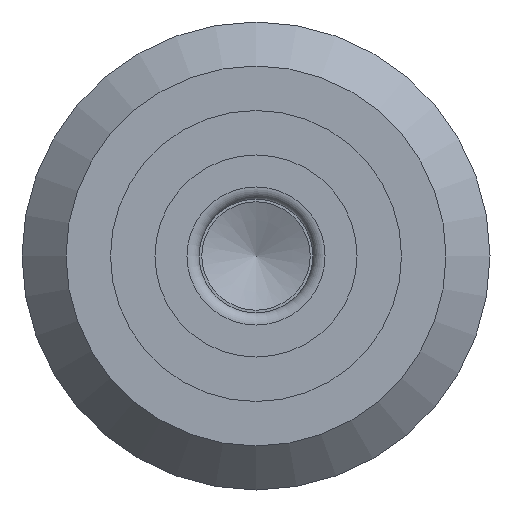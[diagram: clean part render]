
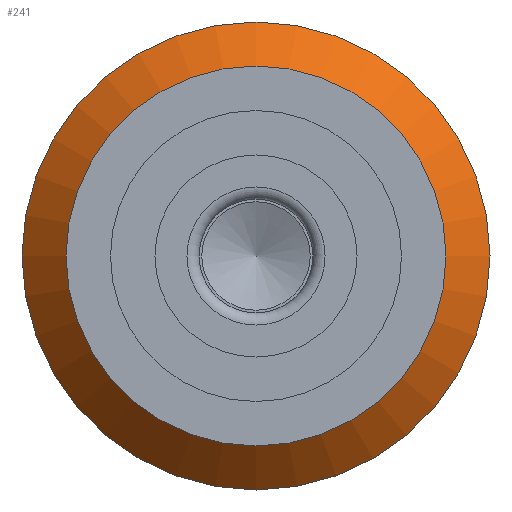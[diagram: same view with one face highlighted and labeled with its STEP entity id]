
A CAD part, left-side view. The second image highlights one B-rep face of the part: STEP entity #241.
In plain terms, the highlighted conical face has half-angle 45 degrees and reference radius 9.792 mm.
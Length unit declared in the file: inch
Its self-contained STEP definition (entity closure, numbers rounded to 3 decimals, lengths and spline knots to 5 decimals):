
#241 = ADVANCED_FACE( '', ( #499, #500 ), #501, .T. );
#499 = FACE_BOUND( '', #754, .T. );
#500 = FACE_OUTER_BOUND( '', #755, .T. );
#501 = CONICAL_SURFACE( '', #756, 0.3855, 0.785 );
#754 = EDGE_LOOP( '', ( #1169 ) );
#755 = EDGE_LOOP( '', ( #1170 ) );
#756 = AXIS2_PLACEMENT_3D( '', #1171, #1172, #1173 );
#1169 = ORIENTED_EDGE( '', *, *, #1359, .T. );
#1170 = ORIENTED_EDGE( '', *, *, #1317, .F. );
#1171 = CARTESIAN_POINT( '', ( -0.0825, 0., 0. ) );
#1172 = DIRECTION( '', ( 1., 0., 0. ) );
#1173 = DIRECTION( '', ( 0., 1., 0. ) );
#1317 = EDGE_CURVE( '', #1517, #1517, #1518, .T. );
#1359 = EDGE_CURVE( '', #1577, #1577, #1578, .T. );
#1517 = VERTEX_POINT( '', #1857 );
#1518 = CIRCLE( '', #1858, 0.3855 );
#1577 = VERTEX_POINT( '', #1924 );
#1578 = CIRCLE( '', #1925, 0.313 );
#1857 = CARTESIAN_POINT( '', ( -0.0825, 0.3855, 0. ) );
#1858 = AXIS2_PLACEMENT_3D( '', #2050, #2051, #2052 );
#1924 = CARTESIAN_POINT( '', ( -0.155, 0.313, 0. ) );
#1925 = AXIS2_PLACEMENT_3D( '', #2110, #2111, #2112 );
#2050 = CARTESIAN_POINT( '', ( -0.0825, 0., 0. ) );
#2051 = DIRECTION( '', ( 1., 0., 0. ) );
#2052 = DIRECTION( '', ( 0., 1., 0. ) );
#2110 = CARTESIAN_POINT( '', ( -0.155, 0., 0. ) );
#2111 = DIRECTION( '', ( 1., 0., 0. ) );
#2112 = DIRECTION( '', ( 0., 1., 0. ) );
